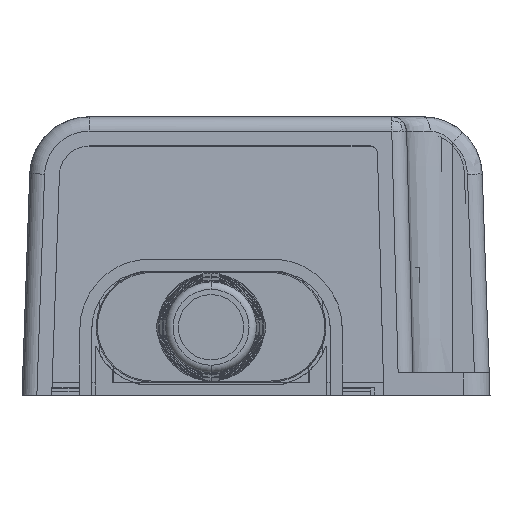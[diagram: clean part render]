
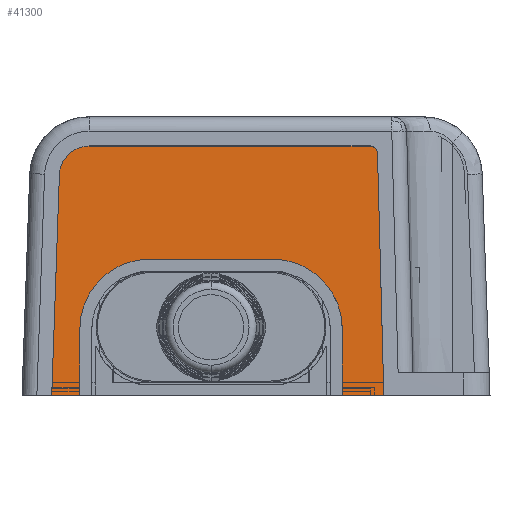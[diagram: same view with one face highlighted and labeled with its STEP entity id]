
A CAD part, left-side view. The second image highlights one B-rep face of the part: STEP entity #41300.
In plain terms, the highlighted planar face has unit normal (-0.999, 0, 0.035).
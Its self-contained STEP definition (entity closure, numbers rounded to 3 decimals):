
#6680=CARTESIAN_POINT('',(-85.617,27.517,
-0.5));
#6690=VERTEX_POINT('',#6680);
#6720=CARTESIAN_POINT('',(-85.617,0.,-0.5));
#6730=DIRECTION('',(0.,1.,0.));
#6740=VECTOR('',#6730,1.);
#6750=LINE('',#6720,#6740);
#6760=CARTESIAN_POINT('',(-85.617,23.722,
-0.5));
#6770=VERTEX_POINT('',#6760);
#6780=EDGE_CURVE('',#6770,#6690,#6750,.T.);
#17490=CARTESIAN_POINT('',(-85.617,-11.616,
-0.5));
#17500=VERTEX_POINT('',#17490);
#17530=CARTESIAN_POINT('',(-85.617,0.,-0.5));
#17540=DIRECTION('',(0.,1.,0.));
#17550=VECTOR('',#17540,1.);
#17560=LINE('',#17530,#17550);
#17570=CARTESIAN_POINT('',(-85.617,-17.218,
-0.5));
#17580=VERTEX_POINT('',#17570);
#17590=EDGE_CURVE('',#17580,#17500,#17560,.T.);
#39730=CARTESIAN_POINT('',(-84.445,-18.132,
33.057));
#39740=DIRECTION('',(0.,1.,0.));
#39750=VECTOR('',#39740,1.);
#39760=LINE('',#39730,#39750);
#39770=CARTESIAN_POINT('',(-84.445,-15.365,
33.057));
#39780=VERTEX_POINT('',#39770);
#39790=CARTESIAN_POINT('',(-84.445,22.482,
33.057));
#39800=VERTEX_POINT('',#39790);
#39810=EDGE_CURVE('',#39780,#39800,#39760,.T.);
#40250=CARTESIAN_POINT('',(-84.576,26.476,
29.312));
#40260=VERTEX_POINT('',#40250);
#40290=CARTESIAN_POINT('',(-85.6,27.5,
0.));
#40300=DIRECTION('',(0.035,-0.035,
0.999));
#40310=VECTOR('',#40300,1.);
#40320=LINE('',#40290,#40310);
#40330=EDGE_CURVE('',#6690,#40260,#40320,.T.);
#40520=CARTESIAN_POINT('',(-84.585,22.482,
29.056));
#40530=DIRECTION('',(-0.999,0.,0.035));
#40540=DIRECTION('',(0.035,0.,
0.999));
#40550=AXIS2_PLACEMENT_3D('',#40520,#40530,#40540);
#40560=CIRCLE('',#40550,4.002);
#40570=EDGE_CURVE('',#39800,#40260,#40560,.T.);
#40630=CARTESIAN_POINT('',(-84.79,-0.15,
23.181));
#40640=DIRECTION('',(-0.999,0.,0.035));
#40650=DIRECTION('',(0.,-1.,0.));
#40660=AXIS2_PLACEMENT_3D('',#40630,#40640,#40650);
#40670=PLANE('',#40660);
#40680=CARTESIAN_POINT('',(-84.48,-15.365,
32.058));
#40690=DIRECTION('',(-0.999,0.,0.035));
#40700=DIRECTION('',(0.035,0.,0.999));
#40710=AXIS2_PLACEMENT_3D('',#40680,#40690,#40700);
#40720=CIRCLE('',#40710,1.);
#40730=CARTESIAN_POINT('',(-84.479,-16.365,
32.084));
#40740=VERTEX_POINT('',#40730);
#40750=EDGE_CURVE('',#40740,#39780,#40720,.T.);
#40760=ORIENTED_EDGE('',*,*,#40750,.T.);
#40770=CARTESIAN_POINT('',(-85.6,-17.205,
0.));
#40780=DIRECTION('',(0.035,0.026,
0.999));
#40790=VECTOR('',#40780,1.);
#40800=LINE('',#40770,#40790);
#40810=EDGE_CURVE('',#17580,#40740,#40800,.T.);
#40820=ORIENTED_EDGE('',*,*,#40810,.T.);
#40830=ORIENTED_EDGE('',*,*,#17590,.F.);
#40840=CARTESIAN_POINT('',(-85.6,-11.616,0.));
#40850=DIRECTION('',(0.035,0.,
0.999));
#40860=VECTOR('',#40850,1.);
#40870=LINE('',#40840,#40860);
#40880=CARTESIAN_POINT('',(-85.305,-11.622,
8.45));
#40890=VERTEX_POINT('',#40880);
#40900=EDGE_CURVE('',#17500,#40890,#40870,.T.);
#40910=ORIENTED_EDGE('',*,*,#40900,.F.);
#40920=CARTESIAN_POINT('',(-85.305,-2.247,
8.45));
#40930=DIRECTION('',(-0.999,0.,0.035));
#40940=DIRECTION('',(-0.035,0.,-0.999));
#40950=AXIS2_PLACEMENT_3D('',#40920,#40930,#40940);
#40960=CIRCLE('',#40950,9.375);
#40970=CARTESIAN_POINT('',(-84.977,-2.247,
17.819));
#40980=VERTEX_POINT('',#40970);
#40990=EDGE_CURVE('',#40890,#40980,#40960,.T.);
#41000=ORIENTED_EDGE('',*,*,#40990,.F.);
#41010=CARTESIAN_POINT('',(-84.977,0.,17.819));
#41020=DIRECTION('',(0.,1.,0.));
#41030=VECTOR('',#41020,1.);
#41040=LINE('',#41010,#41030);
#41050=CARTESIAN_POINT('',(-84.977,14.353,
17.819));
#41060=VERTEX_POINT('',#41050);
#41070=EDGE_CURVE('',#40980,#41060,#41040,.T.);
#41080=ORIENTED_EDGE('',*,*,#41070,.F.);
#41090=CARTESIAN_POINT('',(-85.305,14.353,
8.45));
#41100=DIRECTION('',(-0.999,0.,0.035));
#41110=DIRECTION('',(-0.035,0.,-0.999));
#41120=AXIS2_PLACEMENT_3D('',#41090,#41100,#41110);
#41130=CIRCLE('',#41120,9.375);
#41140=CARTESIAN_POINT('',(-85.305,23.728,
8.45));
#41150=VERTEX_POINT('',#41140);
#41160=EDGE_CURVE('',#41060,#41150,#41130,.T.);
#41170=ORIENTED_EDGE('',*,*,#41160,.F.);
#41180=CARTESIAN_POINT('',(-85.6,23.722,0.));
#41190=DIRECTION('',(-0.035,0.,
-0.999));
#41200=VECTOR('',#41190,1.);
#41210=LINE('',#41180,#41200);
#41220=EDGE_CURVE('',#41150,#6770,#41210,.T.);
#41230=ORIENTED_EDGE('',*,*,#41220,.F.);
#41240=ORIENTED_EDGE('',*,*,#6780,.F.);
#41250=ORIENTED_EDGE('',*,*,#40330,.F.);
#41260=ORIENTED_EDGE('',*,*,#40570,.T.);
#41270=ORIENTED_EDGE('',*,*,#39810,.T.);
#41280=EDGE_LOOP('',(#41270,#41260,#41250,#41240,#41230,#41170,#41080,
#41000,#40910,#40830,#40820,#40760));
#41290=FACE_OUTER_BOUND('',#41280,.T.);
#41300=ADVANCED_FACE('',(#41290),#40670,.T.);
